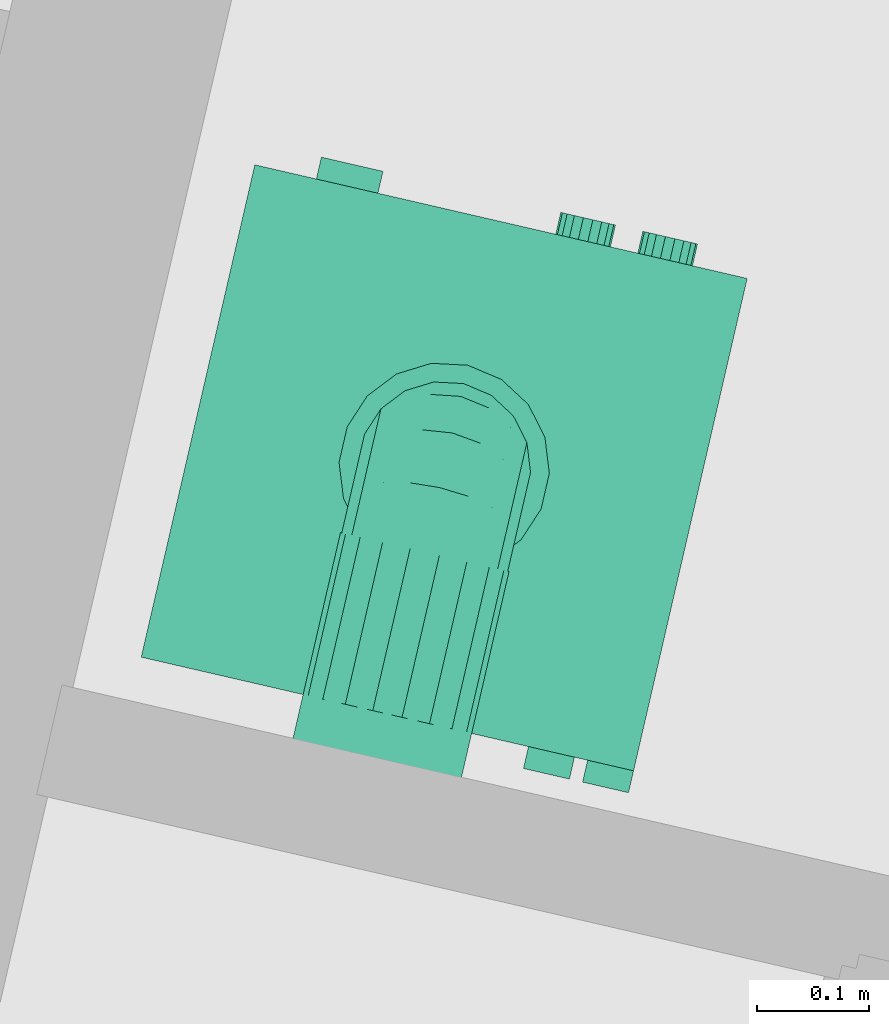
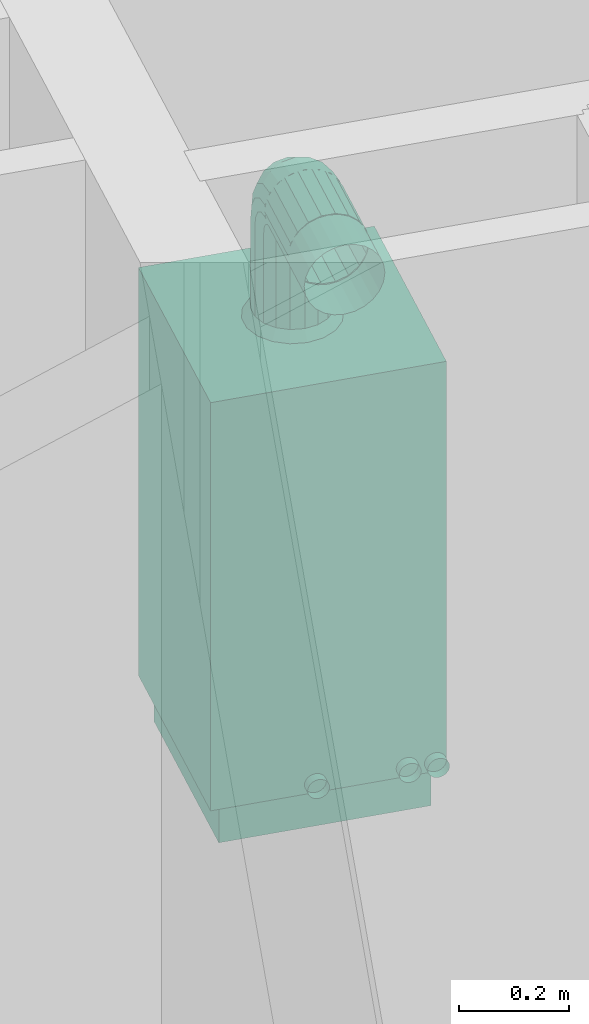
# One storey, part 76 of 91: 1 energy conversion device.
"""IFC2X3 building model written with IfcOpenShell, lengths in metres."""

from ifc_helpers import new_model, entity, si_unit, converted_unit, derived_unit, money_unit, direction, frame, origin_with_axes, place, context, subcontext, project, spatial, open_shell, faceted_brep, surface_model, source, transform, mapped, type_object, element, save


model = new_model("IFC2X3")

# Units and contexts
model_context = context("Model", 3, precision=1e-05, world=origin_with_axes(), true_north=direction((0.0, 1.0)))
body_context = subcontext(model_context, "Body", "Model", "MODEL_VIEW")
ifc_project = project(units=[si_unit("LENGTHUNIT", "METRE"), si_unit("AREAUNIT", "SQUARE_METRE"), si_unit("VOLUMEUNIT", "CUBIC_METRE"), converted_unit("PLANEANGLEUNIT", "DEGREE", entity("IfcPlaneAngleMeasure", 0.0174532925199), si_unit("PLANEANGLEUNIT", "RADIAN"), dimensions=[0, 0, 0, 0, 0, 0, 0]), si_unit("SOLIDANGLEUNIT", "STERADIAN"), money_unit("EUR"), converted_unit("TIMEUNIT", "Year", entity("IfcTimeMeasure", 31556926.0), si_unit("TIMEUNIT", "SECOND"), dimensions=[0, 0, 1, 0, 0, 0, 0]), si_unit("MASSUNIT", "GRAM", prefix="KILO"), si_unit("THERMODYNAMICTEMPERATUREUNIT", "DEGREE_CELSIUS"), si_unit("LUMINOUSINTENSITYUNIT", "LUMEN"), si_unit("ENERGYUNIT", "JOULE", prefix="MEGA"), derived_unit("THERMALCONDUCTANCEUNIT", [(si_unit("POWERUNIT", "WATT"), 1), (si_unit("LENGTHUNIT", "METRE"), -1), (si_unit("THERMODYNAMICTEMPERATUREUNIT", "KELVIN"), -1)]), derived_unit("SPECIFICHEATCAPACITYUNIT", [(si_unit("ENERGYUNIT", "JOULE"), 1), (si_unit("MASSUNIT", "GRAM", prefix="KILO"), -1), (si_unit("THERMODYNAMICTEMPERATUREUNIT", "KELVIN"), -1)]), derived_unit("MASSDENSITYUNIT", [(si_unit("MASSUNIT", "GRAM", prefix="KILO"), 1), (si_unit("VOLUMEUNIT", "CUBIC_METRE"), -1)])], contexts=[model_context])

# Site, building, storey
site_placement = place(None, origin_with_axes())
site = spatial("IfcSite", under=ifc_project, at=site_placement, Name="Site", CompositionType="ELEMENT")
building_placement = place(site_placement, origin_with_axes())
building = spatial("IfcBuilding", under=site, at=building_placement, Name="Bâtiment", CompositionType="ELEMENT")
storey_placement = place(building_placement, frame((0.0, 0.0, 5.44), z_axis=(0.0, 0.0, 1.0), x_axis=(1.0, 0.0, 0.0)))
storey = spatial("IfcBuildingStorey", under=building, at=storey_placement, Name="R+2", CompositionType="ELEMENT", Elevation=5.44)

# Energy conversion device
boiler_type = type_object("IfcBoilerType", Name="Chaudière à gaz 23", PredefinedType="WATER")
shared_shape = source(origin_with_axes(), body_context, "Body", "SurfaceModel", [
    surface_model("IfcShellBasedSurfaceModel", [(-0.2, 0.45, 0.090909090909), (-0.2, 0.47, 0.090909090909), (-0.194564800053, 0.47, 0.0916246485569), (-0.194564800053, 0.45, 0.0916246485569), (-0.205435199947, 0.45, 0.0916246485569), (-0.205435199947, 0.47, 0.0916246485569), (-0.1895, 0.47, 0.0937225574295), (-0.1895, 0.45, 0.0937225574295), (-0.2105, 0.45, 0.0937225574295), (-0.2105, 0.47, 0.0937225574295), (-0.185150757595, 0.47, 0.0970598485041), (-0.185150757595, 0.45, 0.0970598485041), (-0.214849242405, 0.45, 0.0970598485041), (-0.214849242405, 0.47, 0.0970598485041), (-0.181813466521, 0.47, 0.101409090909), (-0.181813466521, 0.45, 0.101409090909), (-0.218186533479, 0.45, 0.101409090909), (-0.218186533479, 0.47, 0.101409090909), (-0.179715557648, 0.47, 0.106473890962), (-0.179715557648, 0.45, 0.106473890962), (-0.220284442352, 0.45, 0.106473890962), (-0.220284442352, 0.47, 0.106473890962), (-0.179, 0.47, 0.111909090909), (-0.179, 0.45, 0.111909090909), (-0.221, 0.45, 0.111909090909), (-0.221, 0.47, 0.111909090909), (-0.179715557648, 0.47, 0.117344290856), (-0.179715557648, 0.45, 0.117344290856), (-0.220284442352, 0.45, 0.117344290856), (-0.220284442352, 0.47, 0.117344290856), (-0.181813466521, 0.47, 0.122409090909), (-0.181813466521, 0.45, 0.122409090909), (-0.218186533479, 0.45, 0.122409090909), (-0.218186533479, 0.47, 0.122409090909), (-0.185150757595, 0.47, 0.126758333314), (-0.185150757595, 0.45, 0.126758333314), (-0.214849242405, 0.45, 0.126758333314), (-0.214849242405, 0.47, 0.126758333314), (-0.1895, 0.47, 0.130095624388), (-0.1895, 0.45, 0.130095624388), (-0.2105, 0.45, 0.130095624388), (-0.2105, 0.47, 0.130095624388), (-0.194564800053, 0.47, 0.132193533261), (-0.194564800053, 0.45, 0.132193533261), (-0.205435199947, 0.45, 0.132193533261), (-0.205435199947, 0.47, 0.132193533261), (-0.2, 0.47, 0.132909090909), (-0.2, 0.45, 0.132909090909)], [open_shell([[[0, 1, 2, 3]], [[4, 5, 1, 0]], [[3, 2, 6, 7]], [[8, 9, 5, 4]], [[7, 6, 10, 11]], [[12, 13, 9, 8]], [[11, 10, 14, 15]], [[16, 17, 13, 12]], [[15, 14, 18, 19]], [[20, 21, 17, 16]], [[19, 18, 22, 23]], [[24, 25, 21, 20]], [[23, 22, 26, 27]], [[28, 29, 25, 24]], [[27, 26, 30, 31]], [[32, 33, 29, 28]], [[31, 30, 34, 35]], [[36, 37, 33, 32]], [[35, 34, 38, 39]], [[40, 41, 37, 36]], [[39, 38, 42, 43]], [[44, 45, 41, 40]], [[43, 42, 46, 47]], [[47, 46, 45, 44]]])]),
    surface_model("IfcShellBasedSurfaceModel", [(-0.375, 0.45, 0.090909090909), (-0.375, 0.47, 0.090909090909), (-0.369564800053, 0.47, 0.0916246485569), (-0.369564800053, 0.45, 0.0916246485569), (-0.380435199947, 0.45, 0.0916246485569), (-0.380435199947, 0.47, 0.0916246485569), (-0.3645, 0.47, 0.0937225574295), (-0.3645, 0.45, 0.0937225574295), (-0.3855, 0.45, 0.0937225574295), (-0.3855, 0.47, 0.0937225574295), (-0.360150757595, 0.47, 0.0970598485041), (-0.360150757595, 0.45, 0.0970598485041), (-0.389849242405, 0.45, 0.0970598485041), (-0.389849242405, 0.47, 0.0970598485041), (-0.356813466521, 0.47, 0.101409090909), (-0.356813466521, 0.45, 0.101409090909), (-0.393186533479, 0.45, 0.101409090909), (-0.393186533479, 0.47, 0.101409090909), (-0.354715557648, 0.47, 0.106473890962), (-0.354715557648, 0.45, 0.106473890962), (-0.395284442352, 0.45, 0.106473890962), (-0.395284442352, 0.47, 0.106473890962), (-0.354, 0.47, 0.111909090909), (-0.354, 0.45, 0.111909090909), (-0.396, 0.45, 0.111909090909), (-0.396, 0.47, 0.111909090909), (-0.354715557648, 0.47, 0.117344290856), (-0.354715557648, 0.45, 0.117344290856), (-0.395284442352, 0.45, 0.117344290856), (-0.395284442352, 0.47, 0.117344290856), (-0.356813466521, 0.47, 0.122409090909), (-0.356813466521, 0.45, 0.122409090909), (-0.393186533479, 0.45, 0.122409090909), (-0.393186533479, 0.47, 0.122409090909), (-0.360150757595, 0.47, 0.126758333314), (-0.360150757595, 0.45, 0.126758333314), (-0.389849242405, 0.45, 0.126758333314), (-0.389849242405, 0.47, 0.126758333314), (-0.3645, 0.47, 0.130095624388), (-0.3645, 0.45, 0.130095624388), (-0.3855, 0.45, 0.130095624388), (-0.3855, 0.47, 0.130095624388), (-0.369564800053, 0.47, 0.132193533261), (-0.369564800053, 0.45, 0.132193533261), (-0.380435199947, 0.45, 0.132193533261), (-0.380435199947, 0.47, 0.132193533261), (-0.375, 0.47, 0.132909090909), (-0.375, 0.45, 0.132909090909)], [open_shell([[[0, 1, 2, 3]], [[4, 5, 1, 0]], [[3, 2, 6, 7]], [[8, 9, 5, 4]], [[7, 6, 10, 11]], [[12, 13, 9, 8]], [[11, 10, 14, 15]], [[16, 17, 13, 12]], [[15, 14, 18, 19]], [[20, 21, 17, 16]], [[19, 18, 22, 23]], [[24, 25, 21, 20]], [[23, 22, 26, 27]], [[28, 29, 25, 24]], [[27, 26, 30, 31]], [[32, 33, 29, 28]], [[31, 30, 34, 35]], [[36, 37, 33, 32]], [[35, 34, 38, 39]], [[40, 41, 37, 36]], [[39, 38, 42, 43]], [[44, 45, 41, 40]], [[43, 42, 46, 47]], [[47, 46, 45, 44]]])]),
    surface_model("IfcShellBasedSurfaceModel", [(-0.429, 0.45, 0.090909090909), (-0.429, 0.47, 0.090909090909), (-0.423564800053, 0.47, 0.0916246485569), (-0.423564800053, 0.45, 0.0916246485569), (-0.434435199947, 0.45, 0.0916246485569), (-0.434435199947, 0.47, 0.0916246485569), (-0.4185, 0.47, 0.0937225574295), (-0.4185, 0.45, 0.0937225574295), (-0.4395, 0.45, 0.0937225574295), (-0.4395, 0.47, 0.0937225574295), (-0.414150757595, 0.47, 0.0970598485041), (-0.414150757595, 0.45, 0.0970598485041), (-0.443849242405, 0.45, 0.0970598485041), (-0.443849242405, 0.47, 0.0970598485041), (-0.410813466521, 0.47, 0.101409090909), (-0.410813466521, 0.45, 0.101409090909), (-0.447186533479, 0.45, 0.101409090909), (-0.447186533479, 0.47, 0.101409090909), (-0.408715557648, 0.47, 0.106473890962), (-0.408715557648, 0.45, 0.106473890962), (-0.449284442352, 0.45, 0.106473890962), (-0.449284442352, 0.47, 0.106473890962), (-0.408, 0.47, 0.111909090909), (-0.408, 0.45, 0.111909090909), (-0.45, 0.45, 0.111909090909), (-0.45, 0.47, 0.111909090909), (-0.408715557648, 0.47, 0.117344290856), (-0.408715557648, 0.45, 0.117344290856), (-0.449284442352, 0.45, 0.117344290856), (-0.449284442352, 0.47, 0.117344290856), (-0.410813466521, 0.47, 0.122409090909), (-0.410813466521, 0.45, 0.122409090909), (-0.447186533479, 0.45, 0.122409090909), (-0.447186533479, 0.47, 0.122409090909), (-0.414150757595, 0.47, 0.126758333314), (-0.414150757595, 0.45, 0.126758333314), (-0.443849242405, 0.45, 0.126758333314), (-0.443849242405, 0.47, 0.126758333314), (-0.4185, 0.47, 0.130095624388), (-0.4185, 0.45, 0.130095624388), (-0.4395, 0.45, 0.130095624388), (-0.4395, 0.47, 0.130095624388), (-0.423564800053, 0.47, 0.132193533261), (-0.423564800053, 0.45, 0.132193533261), (-0.434435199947, 0.45, 0.132193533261), (-0.434435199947, 0.47, 0.132193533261), (-0.429, 0.47, 0.132909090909), (-0.429, 0.45, 0.132909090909)], [open_shell([[[0, 1, 2, 3]], [[4, 5, 1, 0]], [[3, 2, 6, 7]], [[8, 9, 5, 4]], [[7, 6, 10, 11]], [[12, 13, 9, 8]], [[11, 10, 14, 15]], [[16, 17, 13, 12]], [[15, 14, 18, 19]], [[20, 21, 17, 16]], [[19, 18, 22, 23]], [[24, 25, 21, 20]], [[23, 22, 26, 27]], [[28, 29, 25, 24]], [[27, 26, 30, 31]], [[32, 33, 29, 28]], [[31, 30, 34, 35]], [[36, 37, 33, 32]], [[35, 34, 38, 39]], [[40, 41, 37, 36]], [[39, 38, 42, 43]], [[44, 45, 41, 40]], [[43, 42, 46, 47]], [[47, 46, 45, 44]]])]),
    surface_model("IfcShellBasedSurfaceModel", [(-0.225, 0.45, 1.218), (-0.225, 0.55, 1.218), (-0.205070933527, 0.55, 1.22062371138), (-0.205070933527, 0.45, 1.22062371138), (-0.244929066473, 0.45, 1.22062371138), (-0.244929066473, 0.55, 1.22062371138), (-0.1865, 0.55, 1.22831604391), (-0.1865, 0.45, 1.22831604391), (-0.2635, 0.45, 1.22831604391), (-0.2635, 0.55, 1.22831604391), (-0.170552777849, 0.55, 1.24055277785), (-0.170552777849, 0.45, 1.24055277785), (-0.279447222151, 0.45, 1.24055277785), (-0.279447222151, 0.55, 1.24055277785), (-0.158316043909, 0.55, 1.2565), (-0.158316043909, 0.45, 1.2565), (-0.291683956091, 0.45, 1.2565), (-0.291683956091, 0.55, 1.2565), (-0.150623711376, 0.55, 1.27507093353), (-0.150623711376, 0.45, 1.27507093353), (-0.299376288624, 0.45, 1.27507093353), (-0.299376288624, 0.55, 1.27507093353), (-0.148, 0.55, 1.295), (-0.148, 0.45, 1.295), (-0.302, 0.45, 1.295), (-0.302, 0.55, 1.295), (-0.150623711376, 0.55, 1.31492906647), (-0.150623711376, 0.45, 1.31492906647), (-0.299376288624, 0.45, 1.31492906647), (-0.299376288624, 0.55, 1.31492906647), (-0.158316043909, 0.55, 1.3335), (-0.158316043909, 0.45, 1.3335), (-0.291683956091, 0.45, 1.3335), (-0.291683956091, 0.55, 1.3335), (-0.170552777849, 0.55, 1.34944722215), (-0.170552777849, 0.45, 1.34944722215), (-0.279447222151, 0.45, 1.34944722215), (-0.279447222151, 0.55, 1.34944722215), (-0.1865, 0.55, 1.36168395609), (-0.1865, 0.45, 1.36168395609), (-0.2635, 0.45, 1.36168395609), (-0.2635, 0.55, 1.36168395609), (-0.205070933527, 0.55, 1.36937628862), (-0.205070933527, 0.45, 1.36937628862), (-0.244929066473, 0.45, 1.36937628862), (-0.244929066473, 0.55, 1.36937628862), (-0.225, 0.55, 1.372), (-0.225, 0.45, 1.372)], [open_shell([[[0, 1, 2, 3]], [[4, 5, 1, 0]], [[3, 2, 6, 7]], [[8, 9, 5, 4]], [[7, 6, 10, 11]], [[12, 13, 9, 8]], [[11, 10, 14, 15]], [[16, 17, 13, 12]], [[15, 14, 18, 19]], [[20, 21, 17, 16]], [[19, 18, 22, 23]], [[24, 25, 21, 20]], [[23, 22, 26, 27]], [[28, 29, 25, 24]], [[27, 26, 30, 31]], [[32, 33, 29, 28]], [[31, 30, 34, 35]], [[36, 37, 33, 32]], [[35, 34, 38, 39]], [[40, 41, 37, 36]], [[39, 38, 42, 43]], [[44, 45, 41, 40]], [[43, 42, 46, 47]], [[47, 46, 45, 44]]])]),
    faceted_brep([(-0.4275, 0.0225, 0.0), (-0.4275, 0.4275, 0.0), (-0.0225, 0.4275, 0.0), (-0.0225, 0.0225, 0.0), (-0.4275, 0.0225, 0.0909090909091), (-0.4275, 0.4275, 0.0909090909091), (-0.0225, 0.4275, 0.0909090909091), (-0.0225, 0.0225, 0.0909090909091)], [[[0, 1, 2, 3]], [[0, 4, 5, 1]], [[1, 5, 6, 2]], [[2, 6, 7, 3]], [[3, 7, 4, 0]], [[7, 6, 5, 4]]]),
    faceted_brep([(0.0, 0.45, 0.0909090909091), (-0.45, 0.45, 0.0909090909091), (-0.45, 0.45, 1.0), (0.0, 0.45, 1.0), (0.0, 0.0, 0.0909090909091), (-0.45, 0.0, 0.0909090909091), (-0.45, 0.0, 0.818181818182), (-0.45, 0.0225, 0.818181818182), (-0.45, 0.0225, 1.0), (0.0, 0.0225, 1.0), (0.0, 0.0225, 0.818181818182), (0.0, 0.0, 0.818181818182)], [[[0, 1, 2, 3]], [[4, 5, 1, 0]], [[1, 5, 6, 7, 8, 2]], [[3, 2, 8, 9]], [[0, 3, 9, 10, 11, 4]], [[11, 6, 5, 4]], [[10, 7, 6, 11]], [[9, 8, 7, 10]]]),
    faceted_brep([(-0.45, 0.0, 0.818181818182), (-0.45, 0.0225, 0.818181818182), (0.0, 0.0225, 0.818181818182), (0.0, 0.0, 0.818181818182), (-0.45, 0.0, 1.0), (-0.45, 0.0225, 1.0), (0.0, 0.0225, 1.0), (0.0, 0.0, 1.0)], [[[0, 1, 2, 3]], [[0, 4, 5, 1]], [[1, 5, 6, 2]], [[2, 6, 7, 3]], [[3, 7, 4, 0]], [[7, 6, 5, 4]]]),
    faceted_brep([(-0.32349231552, 0.0, 0.900540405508), (-0.325, 0.0, 0.909090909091), (-0.32349231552, 0.0, 0.917641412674), (-0.319151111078, 0.0, 0.925160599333), (-0.3125, 0.0, 0.930741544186), (-0.304341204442, 0.0, 0.933711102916), (-0.295658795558, 0.0, 0.933711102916), (-0.2875, 0.0, 0.930741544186), (-0.280848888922, 0.0, 0.925160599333), (-0.27650768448, 0.0, 0.917641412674), (-0.275, 0.0, 0.909090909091), (-0.27650768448, 0.0, 0.900540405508), (-0.280848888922, 0.0, 0.893021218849), (-0.2875, 0.0, 0.887440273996), (-0.295658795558, 0.0, 0.884470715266), (-0.304341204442, 0.0, 0.884470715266), (-0.3125, 0.0, 0.887440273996), (-0.319151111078, 0.0, 0.893021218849), (-0.32349231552, -0.02, 0.900540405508), (-0.325, -0.02, 0.909090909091), (-0.32349231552, -0.02, 0.917641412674), (-0.319151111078, -0.02, 0.925160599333), (-0.3125, -0.02, 0.930741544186), (-0.304341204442, -0.02, 0.933711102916), (-0.295658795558, -0.02, 0.933711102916), (-0.2875, -0.02, 0.930741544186), (-0.280848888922, -0.02, 0.925160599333), (-0.27650768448, -0.02, 0.917641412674), (-0.275, -0.02, 0.909090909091), (-0.27650768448, -0.02, 0.900540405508), (-0.280848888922, -0.02, 0.893021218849), (-0.2875, -0.02, 0.887440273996), (-0.295658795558, -0.02, 0.884470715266), (-0.304341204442, -0.02, 0.884470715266), (-0.3125, -0.02, 0.887440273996), (-0.319151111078, -0.02, 0.893021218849)], [[[0, 1, 2, 3, 4, 5, 6, 7, 8, 9, 10, 11, 12, 13, 14, 15, 16, 17]], [[0, 18, 19, 1]], [[1, 19, 20, 2]], [[2, 20, 21, 3]], [[3, 21, 22, 4]], [[4, 22, 23, 5]], [[5, 23, 24, 6]], [[6, 24, 25, 7]], [[7, 25, 26, 8]], [[8, 26, 27, 9]], [[9, 27, 28, 10]], [[10, 28, 29, 11]], [[11, 29, 30, 12]], [[12, 30, 31, 13]], [[13, 31, 32, 14]], [[14, 32, 33, 15]], [[15, 33, 34, 16]], [[16, 34, 35, 17]], [[17, 35, 18, 0]], [[18, 35, 34, 33, 32, 31, 30, 29, 28, 27, 26, 25, 24, 23, 22, 21, 20, 19]]]),
    faceted_brep([(-0.39849231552, 0.0, 0.900540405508), (-0.4, 0.0, 0.909090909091), (-0.39849231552, 0.0, 0.917641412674), (-0.394151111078, 0.0, 0.925160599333), (-0.3875, 0.0, 0.930741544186), (-0.379341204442, 0.0, 0.933711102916), (-0.370658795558, 0.0, 0.933711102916), (-0.3625, 0.0, 0.930741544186), (-0.355848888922, 0.0, 0.925160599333), (-0.35150768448, 0.0, 0.917641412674), (-0.35, 0.0, 0.909090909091), (-0.35150768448, 0.0, 0.900540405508), (-0.355848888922, 0.0, 0.893021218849), (-0.3625, 0.0, 0.887440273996), (-0.370658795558, 0.0, 0.884470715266), (-0.379341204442, 0.0, 0.884470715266), (-0.3875, 0.0, 0.887440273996), (-0.394151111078, 0.0, 0.893021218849), (-0.39849231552, -0.02, 0.900540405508), (-0.4, -0.02, 0.909090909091), (-0.39849231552, -0.02, 0.917641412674), (-0.394151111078, -0.02, 0.925160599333), (-0.3875, -0.02, 0.930741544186), (-0.379341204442, -0.02, 0.933711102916), (-0.370658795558, -0.02, 0.933711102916), (-0.3625, -0.02, 0.930741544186), (-0.355848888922, -0.02, 0.925160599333), (-0.35150768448, -0.02, 0.917641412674), (-0.35, -0.02, 0.909090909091), (-0.35150768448, -0.02, 0.900540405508), (-0.355848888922, -0.02, 0.893021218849), (-0.3625, -0.02, 0.887440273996), (-0.370658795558, -0.02, 0.884470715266), (-0.379341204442, -0.02, 0.884470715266), (-0.3875, -0.02, 0.887440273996), (-0.394151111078, -0.02, 0.893021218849)], [[[0, 1, 2, 3, 4, 5, 6, 7, 8, 9, 10, 11, 12, 13, 14, 15, 16, 17]], [[0, 18, 19, 1]], [[1, 19, 20, 2]], [[2, 20, 21, 3]], [[3, 21, 22, 4]], [[4, 22, 23, 5]], [[5, 23, 24, 6]], [[6, 24, 25, 7]], [[7, 25, 26, 8]], [[8, 26, 27, 9]], [[9, 27, 28, 10]], [[10, 28, 29, 11]], [[11, 29, 30, 12]], [[12, 30, 31, 13]], [[13, 31, 32, 14]], [[14, 32, 33, 15]], [[15, 33, 34, 16]], [[16, 34, 35, 17]], [[17, 35, 18, 0]], [[18, 35, 34, 33, 32, 31, 30, 29, 28, 27, 26, 25, 24, 23, 22, 21, 20, 19]]]),
    faceted_brep([(-0.1125, 0.0, 0.878787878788), (-0.1125, 0.0, 0.939393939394), (-0.05625, 0.0, 0.939393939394), (-0.05625, 0.0, 0.878787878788), (-0.1125, -0.02, 0.878787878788), (-0.1125, -0.02, 0.939393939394), (-0.05625, -0.02, 0.939393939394), (-0.05625, -0.02, 0.878787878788)], [[[0, 1, 2, 3]], [[0, 4, 5, 1]], [[1, 5, 6, 2]], [[2, 6, 7, 3]], [[3, 7, 4, 0]], [[7, 6, 5, 4]]]),
    surface_model("IfcShellBasedSurfaceModel", [(-0.198664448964, 0.297356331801, 1.22), (-0.198664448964, 0.297356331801, 1.02), (-0.225, 0.302, 1.02), (-0.225, 0.302, 1.22), (-0.175505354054, 0.28398542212, 1.22), (-0.175505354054, 0.28398542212, 1.02), (-0.192935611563, 0.313096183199, 1.0), (-0.225, 0.31875, 1.0), (-0.251335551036, 0.297356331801, 1.02), (-0.251335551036, 0.297356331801, 1.22), (-0.158316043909, 0.2635, 1.22), (-0.158316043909, 0.2635, 1.02), (-0.164738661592, 0.296816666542, 1.0), (-0.257064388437, 0.313096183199, 1.0), (-0.274494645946, 0.28398542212, 1.02), (-0.274494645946, 0.28398542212, 1.22), (-0.149169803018, 0.23837090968, 1.22), (-0.149169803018, 0.23837090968, 1.02), (-0.143810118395, 0.271875, 1.0), (-0.285261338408, 0.296816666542, 1.0), (-0.291683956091, 0.2635, 1.02), (-0.291683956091, 0.2635, 1.22), (-0.149169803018, 0.21162909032, 1.22), (-0.149169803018, 0.21162909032, 1.02), (-0.132674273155, 0.241279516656, 1.0), (-0.306189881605, 0.271875, 1.0), (-0.300830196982, 0.23837090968, 1.02), (-0.300830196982, 0.23837090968, 1.22), (-0.158316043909, 0.1865, 1.22), (-0.158316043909, 0.1865, 1.02), (-0.132674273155, 0.208720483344, 1.0), (-0.317325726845, 0.241279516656, 1.0), (-0.300830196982, 0.21162909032, 1.02), (-0.300830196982, 0.21162909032, 1.22), (-0.175505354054, 0.16601457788, 1.22), (-0.175505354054, 0.16601457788, 1.02), (-0.143810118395, 0.178125, 1.0), (-0.317325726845, 0.208720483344, 1.0), (-0.291683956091, 0.1865, 1.02), (-0.291683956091, 0.1865, 1.22), (-0.198664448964, 0.152643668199, 1.22), (-0.198664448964, 0.152643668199, 1.02), (-0.164738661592, 0.153183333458, 1.0), (-0.306189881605, 0.178125, 1.0), (-0.274494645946, 0.16601457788, 1.02), (-0.274494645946, 0.16601457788, 1.22), (-0.225, 0.148, 1.22), (-0.225, 0.148, 1.02), (-0.192935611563, 0.136903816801, 1.0), (-0.285261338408, 0.153183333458, 1.0), (-0.251335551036, 0.152643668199, 1.02), (-0.251335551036, 0.152643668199, 1.22), (-0.225, 0.13125, 1.0), (-0.257064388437, 0.136903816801, 1.0)], [open_shell([[[0, 1, 2, 3]], [[4, 5, 1, 0]], [[1, 6, 7, 2]], [[3, 2, 8, 9]], [[10, 11, 5, 4]], [[5, 12, 6, 1]], [[2, 7, 13, 8]], [[9, 8, 14, 15]], [[16, 17, 11, 10]], [[11, 18, 12, 5]], [[8, 13, 19, 14]], [[15, 14, 20, 21]], [[22, 23, 17, 16]], [[17, 24, 18, 11]], [[14, 19, 25, 20]], [[21, 20, 26, 27]], [[28, 29, 23, 22]], [[23, 30, 24, 17]], [[20, 25, 31, 26]], [[27, 26, 32, 33]], [[34, 35, 29, 28]], [[29, 36, 30, 23]], [[26, 31, 37, 32]], [[33, 32, 38, 39]], [[40, 41, 35, 34]], [[35, 42, 36, 29]], [[32, 37, 43, 38]], [[39, 38, 44, 45]], [[46, 47, 41, 40]], [[41, 48, 42, 35]], [[38, 43, 49, 44]], [[45, 44, 50, 51]], [[51, 50, 47, 46]], [[47, 52, 48, 41]], [[44, 49, 53, 50]], [[50, 53, 52, 47]]])]),
    faceted_brep([(-0.300830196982, 0.218508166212, 1.2545834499), (-0.300830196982, 0.21162909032, 1.22), (-0.291683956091, 0.1865, 1.22), (-0.291683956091, 0.195291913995, 1.26419993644), (-0.300830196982, 0.243214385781, 1.24434979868), (-0.300830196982, 0.23837090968, 1.22), (-0.291683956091, 0.2635, 1.22), (-0.274494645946, 0.28398542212, 1.22), (-0.251335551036, 0.297356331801, 1.22), (-0.225, 0.302, 1.22), (-0.198664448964, 0.297356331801, 1.22), (-0.175505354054, 0.28398542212, 1.22), (-0.158316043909, 0.2635, 1.22), (-0.149169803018, 0.23837090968, 1.22), (-0.149169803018, 0.21162909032, 1.22), (-0.158316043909, 0.1865, 1.22), (-0.175505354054, 0.16601457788, 1.22), (-0.198664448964, 0.152643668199, 1.22), (-0.225, 0.148, 1.22), (-0.251335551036, 0.152643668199, 1.22), (-0.274494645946, 0.16601457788, 1.22), (-0.274494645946, 0.176365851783, 1.27203936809), (-0.300830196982, 0.238098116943, 1.28390188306), (-0.291683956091, 0.220329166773, 1.30167083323), (-0.300830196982, 0.257007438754, 1.26499256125), (-0.291683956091, 0.266430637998, 1.23473331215), (-0.274494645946, 0.28535670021, 1.2268938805), (-0.251335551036, 0.297709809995, 1.22177705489), (-0.198664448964, 0.297709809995, 1.22177705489), (-0.175505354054, 0.28535670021, 1.2268938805), (-0.158316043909, 0.266430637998, 1.23473331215), (-0.149169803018, 0.243214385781, 1.24434979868), (-0.149169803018, 0.218508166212, 1.2545834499), (-0.158316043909, 0.195291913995, 1.26419993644), (-0.175505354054, 0.176365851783, 1.27203936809), (-0.198664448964, 0.164012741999, 1.2771561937), (-0.225, 0.159722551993, 1.27893324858), (-0.251335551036, 0.164012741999, 1.2771561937), (-0.274494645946, 0.205843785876, 1.31615621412), (-0.291683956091, 0.257800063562, 1.32670808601), (-0.300830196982, 0.267416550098, 1.30349183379), (-0.300830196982, 0.277650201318, 1.27878561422), (-0.291683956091, 0.274776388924, 1.24722361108), (-0.274494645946, 0.289261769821, 1.23273823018), (-0.251335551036, 0.298716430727, 1.22328356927), (-0.198664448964, 0.298716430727, 1.22328356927), (-0.175505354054, 0.289261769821, 1.23273823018), (-0.158316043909, 0.274776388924, 1.24722361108), (-0.149169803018, 0.257007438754, 1.26499256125), (-0.149169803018, 0.238098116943, 1.28390188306), (-0.158316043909, 0.220329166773, 1.30167083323), (-0.175505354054, 0.205843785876, 1.31615621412), (-0.198664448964, 0.196389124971, 1.32561087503), (-0.225, 0.193105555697, 1.3288944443), (-0.251335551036, 0.196389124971, 1.32561087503), (-0.274494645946, 0.249960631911, 1.34563414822), (-0.291683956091, 0.302, 1.3355), (-0.300830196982, 0.302, 1.31037090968), (-0.300830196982, 0.302, 1.28362909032), (-0.291683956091, 0.287266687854, 1.255569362), (-0.274494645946, 0.295106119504, 1.23664329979), (-0.251335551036, 0.300222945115, 1.22429019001), (-0.198664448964, 0.300222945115, 1.22429019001), (-0.175505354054, 0.295106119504, 1.23664329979), (-0.158316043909, 0.287266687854, 1.255569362), (-0.149169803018, 0.277650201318, 1.27878561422), (-0.149169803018, 0.267416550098, 1.30349183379), (-0.158316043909, 0.257800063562, 1.32670808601), (-0.175505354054, 0.249960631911, 1.34563414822), (-0.198664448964, 0.244843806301, 1.357987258), (-0.225, 0.243066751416, 1.36227744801), (-0.251335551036, 0.244843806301, 1.357987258), (-0.274494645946, 0.302, 1.35598542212), (-0.291683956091, 0.302, 1.2585), (-0.251335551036, 0.302, 1.3693563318), (-0.225, 0.302, 1.374), (-0.198664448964, 0.302, 1.3693563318), (-0.175505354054, 0.302, 1.35598542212), (-0.158316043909, 0.302, 1.3355), (-0.149169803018, 0.302, 1.31037090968), (-0.149169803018, 0.302, 1.28362909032), (-0.158316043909, 0.302, 1.2585), (-0.175505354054, 0.302, 1.23801457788), (-0.198664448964, 0.302, 1.2246436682), (-0.251335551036, 0.302, 1.2246436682), (-0.274494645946, 0.302, 1.23801457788)], [[[0, 1, 2, 3]], [[1, 0, 4, 5]], [[2, 1, 5, 6, 7, 8, 9, 10, 11, 12, 13, 14, 15, 16, 17, 18, 19, 20]], [[3, 2, 20, 21]], [[22, 0, 3, 23]], [[0, 22, 24, 4]], [[6, 5, 4, 25]], [[26, 7, 6, 25]], [[7, 26, 27, 8]], [[8, 27, 9]], [[28, 10, 9]], [[10, 28, 29, 11]], [[30, 12, 11, 29]], [[12, 30, 31, 13]], [[32, 14, 13, 31]], [[15, 14, 32, 33]], [[34, 16, 15, 33]], [[17, 16, 34, 35]], [[36, 18, 17, 35]], [[19, 18, 36, 37]], [[21, 20, 19, 37]], [[23, 3, 21, 38]], [[22, 23, 39, 40]], [[24, 22, 40, 41]], [[4, 24, 42, 25]], [[43, 26, 25, 42]], [[26, 43, 44, 27]], [[27, 44, 9]], [[45, 28, 9]], [[28, 45, 46, 29]], [[29, 46, 47, 30]], [[31, 30, 47, 48]], [[49, 32, 31, 48]], [[32, 49, 50, 33]], [[51, 34, 33, 50]], [[35, 34, 51, 52]], [[53, 36, 35, 52]], [[54, 37, 36, 53]], [[38, 21, 37, 54]], [[39, 23, 38, 55]], [[40, 39, 56, 57]], [[41, 40, 57, 58]], [[59, 42, 24, 41]], [[42, 59, 60, 43]], [[43, 60, 61, 44]], [[44, 61, 9]], [[62, 45, 9]], [[45, 62, 63, 46]], [[46, 63, 64, 47]], [[47, 64, 65, 48]], [[66, 49, 48, 65]], [[50, 49, 66, 67]], [[68, 51, 50, 67]], [[52, 51, 68, 69]], [[53, 52, 69, 70]], [[71, 54, 53, 70]], [[55, 38, 54, 71]], [[56, 39, 55, 72]], [[73, 58, 57, 56, 72, 74, 75, 76, 77, 78, 79, 80, 81, 82, 83, 9, 84, 85]], [[59, 41, 58, 73]], [[59, 73, 85, 60]], [[60, 85, 84, 61]], [[61, 84, 9]], [[62, 9, 83]], [[63, 62, 83, 82]], [[63, 82, 81, 64]], [[65, 64, 81, 80]], [[66, 65, 80, 79]], [[67, 66, 79, 78]], [[77, 68, 67, 78]], [[69, 68, 77, 76]], [[75, 70, 69, 76]], [[71, 70, 75, 74]], [[72, 55, 71, 74]]]),
    surface_model("IfcShellBasedSurfaceModel", [(-0.152643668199, 0.45, 1.32333555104), (-0.152643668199, 0.302, 1.32333555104), (-0.148, 0.302, 1.297), (-0.148, 0.45, 1.297), (-0.16601457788, 0.45, 1.34649464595), (-0.16601457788, 0.302, 1.34649464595), (-0.152643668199, 0.302, 1.27066444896), (-0.152643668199, 0.45, 1.27066444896), (-0.1865, 0.45, 1.36368395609), (-0.1865, 0.302, 1.36368395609), (-0.16601457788, 0.302, 1.24750535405), (-0.16601457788, 0.45, 1.24750535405), (-0.21162909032, 0.45, 1.37283019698), (-0.21162909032, 0.302, 1.37283019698), (-0.1865, 0.302, 1.23031604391), (-0.1865, 0.45, 1.23031604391), (-0.23837090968, 0.45, 1.37283019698), (-0.23837090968, 0.302, 1.37283019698), (-0.21162909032, 0.302, 1.22116980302), (-0.21162909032, 0.45, 1.22116980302), (-0.2635, 0.45, 1.36368395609), (-0.2635, 0.302, 1.36368395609), (-0.23837090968, 0.302, 1.22116980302), (-0.23837090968, 0.45, 1.22116980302), (-0.28398542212, 0.45, 1.34649464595), (-0.28398542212, 0.302, 1.34649464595), (-0.2635, 0.302, 1.23031604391), (-0.2635, 0.45, 1.23031604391), (-0.297356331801, 0.45, 1.32333555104), (-0.297356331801, 0.302, 1.32333555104), (-0.28398542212, 0.302, 1.24750535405), (-0.28398542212, 0.45, 1.24750535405), (-0.302, 0.45, 1.297), (-0.302, 0.302, 1.297), (-0.297356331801, 0.302, 1.27066444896), (-0.297356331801, 0.45, 1.27066444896)], [open_shell([[[0, 1, 2, 3]], [[4, 5, 1, 0]], [[3, 2, 6, 7]], [[8, 9, 5, 4]], [[7, 6, 10, 11]], [[12, 13, 9, 8]], [[11, 10, 14, 15]], [[16, 17, 13, 12]], [[15, 14, 18, 19]], [[20, 21, 17, 16]], [[19, 18, 22, 23]], [[24, 25, 21, 20]], [[23, 22, 26, 27]], [[28, 29, 25, 24]], [[27, 26, 30, 31]], [[32, 33, 29, 28]], [[31, 30, 34, 35]], [[35, 34, 33, 32]]])]),
])
energy_conversion_device_placement = place(storey_placement, frame((-8.01390644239, 2.42308955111, 0.9), z_axis=(0.0, 0.0, 1.0), x_axis=(-0.974387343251, 0.224876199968, 0.0)))
element("IfcEnergyConversionDevice", 1, at=energy_conversion_device_placement, inside=storey, type_object=boiler_type, Name="MOB-002", context=body_context, shape_type="MappedRepresentation", body=[
    mapped(shared_shape, transform((0.0, 0.0, 0.0))),
])

save(model, "model.ifc")
